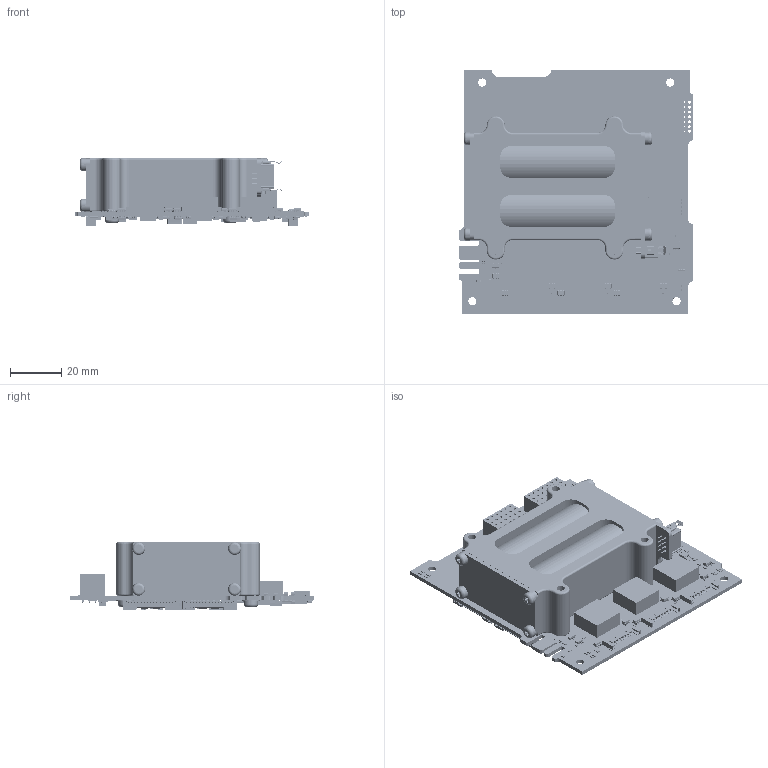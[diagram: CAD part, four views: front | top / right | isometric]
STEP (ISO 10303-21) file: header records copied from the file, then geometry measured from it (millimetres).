
FILE_DESCRIPTION((''),'2;1');
FILE_NAME('ISIS-ICEPSV2-6-0-001_TYPEA','2020-02-20T',('sjay'),(''),'PRO/ENGINEER BY PARAMETRIC TECHNOLOGY CORPORATION, 2015110','PRO/ENGINEER BY PARAMETRIC TECHNOLOGY CORPORATION, 2015110','');
FILE_SCHEMA(('CONFIG_CONTROL_DESIGN'));
Products named in the file (1): ISIS-ICEPSV2-6-0-001_TYPEA
Bounding box: 92 x 96 x 26.5 mm (x, y, z)
Volume: 80500 mm3; surface area: 48869.2 mm2
Topology: 1 solids, 1 shells, 21478 faces, 65016 edges, 43170 vertices
Faces by surface type: plane 14595, cylinder 6274, extrusion 313, cone 96, torus 86, bspline 64, sphere 50
Entity records: 752164 total; most frequent: CARTESIAN_POINT 153472, ORIENTED_EDGE 129932, DIRECTION 119395, EDGE_CURVE 64966, VECTOR 51301, LINE 50988, VERTEX_POINT 43170, AXIS2_PLACEMENT_3D 34047
